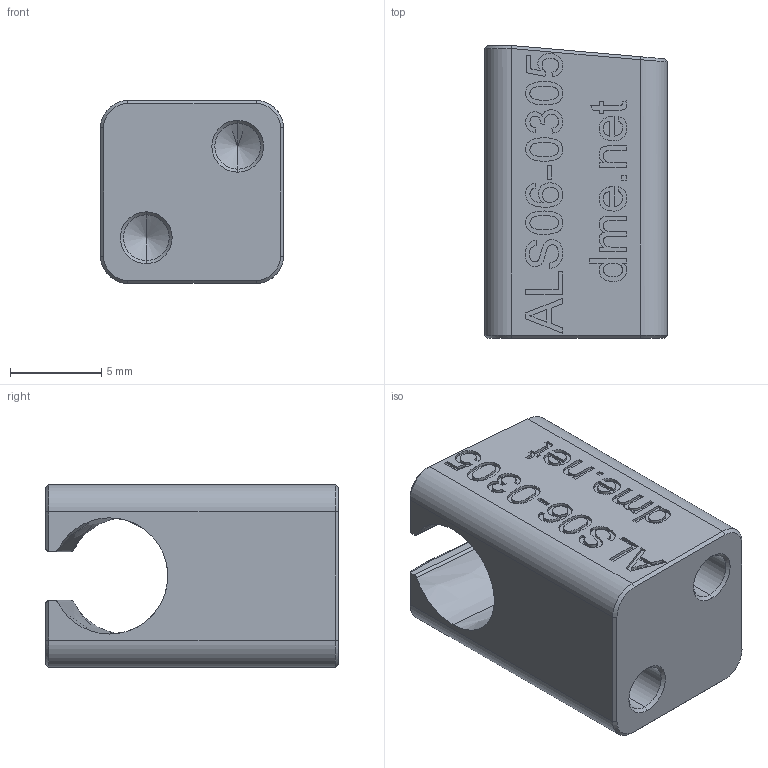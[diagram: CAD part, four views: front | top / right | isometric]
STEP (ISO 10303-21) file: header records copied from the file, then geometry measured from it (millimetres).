
FILE_DESCRIPTION (( 'STEP AP203' ), '1' );
FILE_NAME ('ALS06-0305.STEP', '2021-01-08T21:33:47', ( '' ), ( '' ), 'SwSTEP 2.0', 'SolidWorks 2020', '' );
FILE_SCHEMA (( 'CONFIG_CONTROL_DESIGN' ));
Length unit declared in the file: millimetre
Products named in the file (1): ALS06-0305
Bounding box: 10 x 16 x 10 mm (x, y, z)
Volume: 1147.6 mm3; surface area: 973.4 mm2
Topology: 1 solids, 1 shells, 288 faces, 757 edges, 494 vertices
Faces by surface type: bspline 134, plane 126, cone 14, cylinder 14
Entity records: 16088 total; most frequent: CARTESIAN_POINT 9878, ORIENTED_EDGE 1506, DIRECTION 805, EDGE_CURVE 753, VERTEX_POINT 494, VECTOR 443, LINE 443, EDGE_LOOP 315
